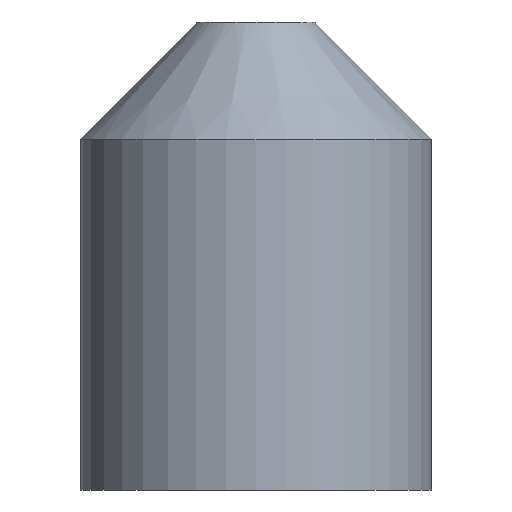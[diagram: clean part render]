
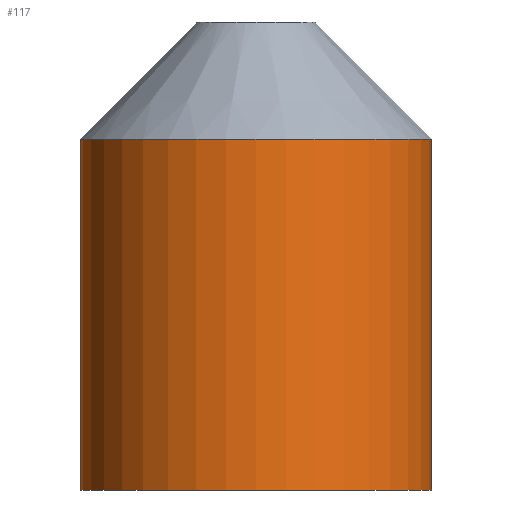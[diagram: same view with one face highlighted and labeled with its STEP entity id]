
A CAD part, front view. The second image highlights one B-rep face of the part: STEP entity #117.
In plain terms, the highlighted cylindrical face has radius 3 mm (diameter 6 mm), a partial arc.
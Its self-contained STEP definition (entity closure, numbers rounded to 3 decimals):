
#10 = CARTESIAN_POINT ( 'NONE',  ( -8.721, 7.015, 0. ) ) ;
#25 = ORIENTED_EDGE ( 'NONE', *, *, #212, .F. ) ;
#56 = CYLINDRICAL_SURFACE ( 'NONE', #122, 3. ) ;
#57 = EDGE_CURVE ( 'NONE', #396, #339, #166, .T. ) ;
#61 = DIRECTION ( 'NONE',  ( 0., 0., -1. ) ) ;
#65 = LINE ( 'NONE', #213, #333 ) ;
#74 = CARTESIAN_POINT ( 'NONE',  ( -11.721, 7.015, 6. ) ) ;
#94 = ORIENTED_EDGE ( 'NONE', *, *, #99, .T. ) ;
#99 = EDGE_CURVE ( 'NONE', #180, #396, #322, .T. ) ;
#117 = ADVANCED_FACE ( 'NONE', ( #242 ), #56, .T. ) ;
#122 = AXIS2_PLACEMENT_3D ( 'NONE', #300, #405, #262 ) ;
#131 = DIRECTION ( 'NONE',  ( 0., 0., 1. ) ) ;
#147 = EDGE_LOOP ( 'NONE', ( #25, #94, #311, #275 ) ) ;
#166 = LINE ( 'NONE', #270, #413 ) ;
#180 = VERTEX_POINT ( 'NONE', #271 ) ;
#205 = DIRECTION ( 'NONE',  ( 1., 0., 0. ) ) ;
#208 = CARTESIAN_POINT ( 'NONE',  ( -8.721, 7.015, 6. ) ) ;
#212 = EDGE_CURVE ( 'NONE', #180, #265, #65, .T. ) ;
#213 = CARTESIAN_POINT ( 'NONE',  ( -5.721, 7.015, 8. ) ) ;
#222 = EDGE_CURVE ( 'NONE', #339, #265, #223, .T. ) ;
#223 = CIRCLE ( 'NONE', #302, 3. ) ;
#239 = DIRECTION ( 'NONE',  ( 0., 0., -1. ) ) ;
#242 = FACE_OUTER_BOUND ( 'NONE', #147, .T. ) ;
#262 = DIRECTION ( 'NONE',  ( -1., 0., 0. ) ) ;
#265 = VERTEX_POINT ( 'NONE', #346 ) ;
#270 = CARTESIAN_POINT ( 'NONE',  ( -11.721, 7.015, 8. ) ) ;
#271 = CARTESIAN_POINT ( 'NONE',  ( -5.721, 7.015, 6. ) ) ;
#275 = ORIENTED_EDGE ( 'NONE', *, *, #222, .T. ) ;
#300 = CARTESIAN_POINT ( 'NONE',  ( -8.721, 7.015, 8. ) ) ;
#302 = AXIS2_PLACEMENT_3D ( 'NONE', #10, #131, #310 ) ;
#310 = DIRECTION ( 'NONE',  ( 1., 0., 0. ) ) ;
#311 = ORIENTED_EDGE ( 'NONE', *, *, #57, .T. ) ;
#322 = CIRCLE ( 'NONE', #430, 3. ) ;
#333 = VECTOR ( 'NONE', #239, 1000. ) ;
#339 = VERTEX_POINT ( 'NONE', #393 ) ;
#346 = CARTESIAN_POINT ( 'NONE',  ( -5.721, 7.015, 0. ) ) ;
#376 = DIRECTION ( 'NONE',  ( 0., 0., -1. ) ) ;
#393 = CARTESIAN_POINT ( 'NONE',  ( -11.721, 7.015, 0. ) ) ;
#396 = VERTEX_POINT ( 'NONE', #74 ) ;
#405 = DIRECTION ( 'NONE',  ( 0., 0., -1. ) ) ;
#413 = VECTOR ( 'NONE', #61, 1000. ) ;
#430 = AXIS2_PLACEMENT_3D ( 'NONE', #208, #376, #205 ) ;
